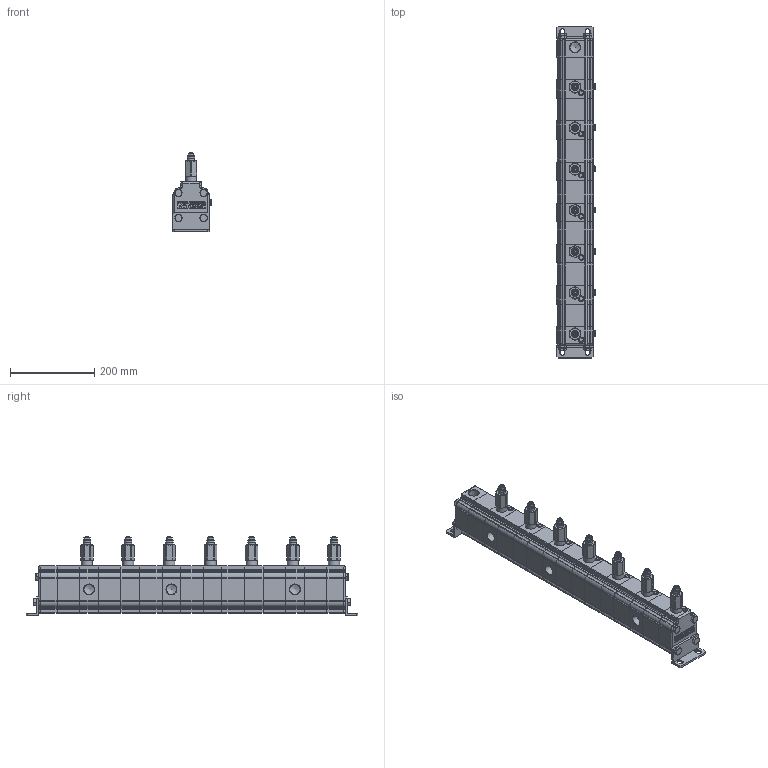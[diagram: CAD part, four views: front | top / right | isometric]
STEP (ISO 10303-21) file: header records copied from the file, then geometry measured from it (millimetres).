
FILE_DESCRIPTION(/* description */ ('Unknown'),/* implementation_level */ '2;1');
FILE_NAME(/* name */ '9RV07-45',/* time_stamp */ '2020-04-16T13:30:03+02:00',/* author */ ('Unknown'),/* organization */ ('Unknown'),/* preprocessor_version */ 'ST-DEVELOPER v16.7',/* originating_system */ 'DEX',/* authorisation */ $);
FILE_SCHEMA (('AUTOMOTIVE_DESIGN {1 0 10303 214 3 1 1}'));
Products named in the file (1): RV-2V
Bounding box: 90.5 x 790 x 189.85 mm (x, y, z)
Volume: 6378040.8 mm3; surface area: 359333.3 mm2
Topology: 1 solids, 1 shells, 1747 faces, 4669 edges, 3015 vertices
Faces by surface type: cylinder 754, plane 741, cone 172, bspline 48, torus 32
Full cylindrical faces by diameter (mm): 8 x7, 13.8 x7, 14 x7, 16 x8, 17.003 x7, 18 x7, 18.631 x14, 24.117 x8, 26.5 x7
Entity records: 72897 total; most frequent: CARTESIAN_POINT 17501, DIRECTION 9196, ORIENTED_EDGE 8836, EDGE_CURVE 4418, AXIS2_PLACEMENT_3D 3426, VERTEX_POINT 2951, LINE 2344, VECTOR 2344
